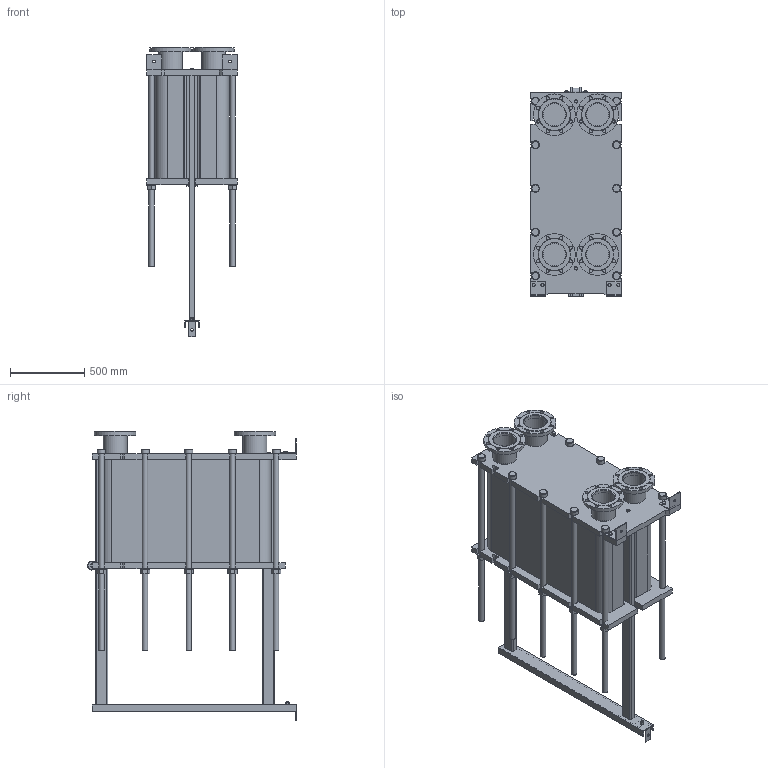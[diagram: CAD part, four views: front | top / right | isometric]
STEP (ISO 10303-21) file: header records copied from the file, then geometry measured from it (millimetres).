
FILE_DESCRIPTION(/* description */ (''),/* implementation_level */ '2;1');
FILE_NAME(/* name */ 'C:\Users\zhuro\Desktop\ENCO\TO\ЭН-041\ЭН-0,5-041-201-1.stp',/* time_stamp */ '2022-06-06T11:06:21+03:00',/* author */ ('zhuro'),/* organization */ (''),/* preprocessor_version */ 'ST-DEVELOPER v18.1',/* originating_system */ 'Autodesk Inventor 2022',/* authorisation */ '');
FILE_SCHEMA (('AUTOMOTIVE_DESIGN { 1 0 10303 214 3 1 1 }'));
Length unit declared in the file: millimetre
Products named in the file (1): ЭН-0,5-041-201-1
Bounding box: 610 x 1406.5 x 1947.5 mm (x, y, z)
Volume: 477592811.3 mm3; surface area: 11251478.3 mm2
Topology: 52 solids, 52 shells, 711 faces, 1696 edges, 1094 vertices
Faces by surface type: plane 487, cylinder 177, cone 41, torus 6
Full cylindrical faces by diameter (mm): 8 x4, 10 x2, 16 x8, 18 x3, 22 x32, 36 x24, 50 x1, 54 x10, 60 x12, 151 x4, 161 x8, 280 x4
Entity records: 22667 total; most frequent: CARTESIAN_POINT 5230, DIRECTION 3644, ORIENTED_EDGE 3392, EDGE_CURVE 1696, AXIS2_PLACEMENT_3D 1272, LINE 1100, VECTOR 1100, VERTEX_POINT 1094
